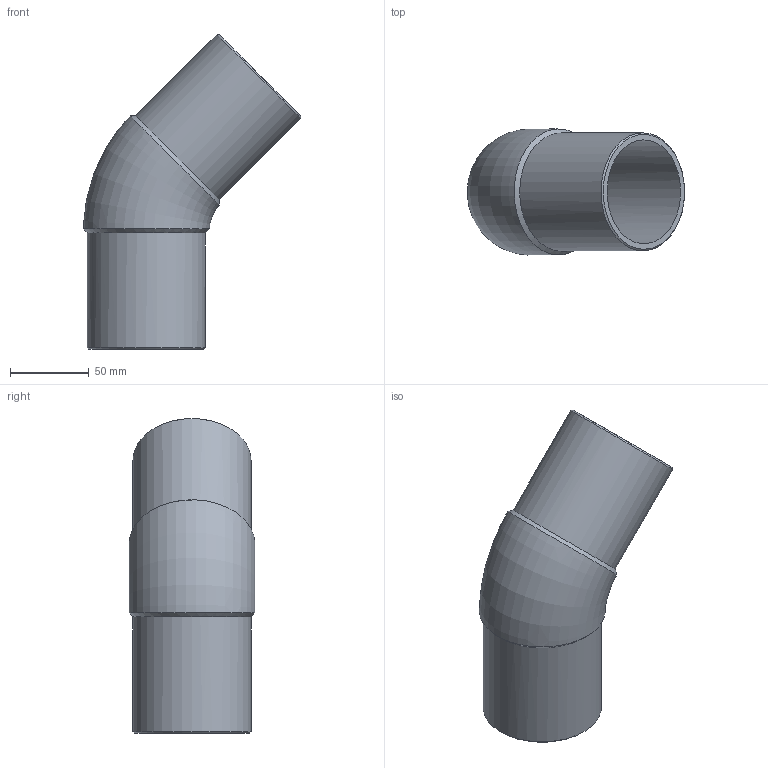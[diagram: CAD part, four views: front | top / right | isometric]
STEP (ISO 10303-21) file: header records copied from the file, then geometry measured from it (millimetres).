
FILE_DESCRIPTION(/* description */ ('Unknown'),/* implementation_level */ '2;1');
FILE_NAME(/* name */ 'G4P075B',/* time_stamp */ '2022-01-21T14:49:33+01:00',/* author */ ('Unknown'),/* organization */ ('Unknown'),/* preprocessor_version */ 'ST-DEVELOPER v18.1',/* originating_system */ 'Solid Edge',/* authorisation */ 'Unknown');
FILE_SCHEMA (('AUTOMOTIVE_DESIGN {1 0 10303 214 3 1 1}'));
Length unit declared in the file: millimetre
Products named in the file (1): G4P075B
Bounding box: 137.84 x 79.95 x 199.93 mm (x, y, z)
Volume: 233413.4 mm3; surface area: 92154.7 mm2
Topology: 1 solids, 1 shells, 12 faces, 30 edges, 20 vertices
Faces by surface type: cone 4, cylinder 4, plane 2, torus 2
Full cylindrical faces by diameter (mm): 66 x2, 75 x2
Entity records: 430 total; most frequent: CARTESIAN_POINT 170, DIRECTION 48, ORIENTED_EDGE 34, AXIS2_PLACEMENT_3D 24, EDGE_LOOP 23, FACE_BOUND 23, EDGE_CURVE 17, VERTEX_POINT 16
